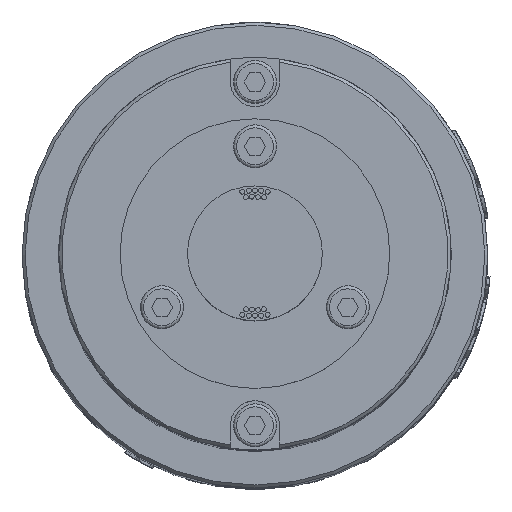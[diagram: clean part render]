
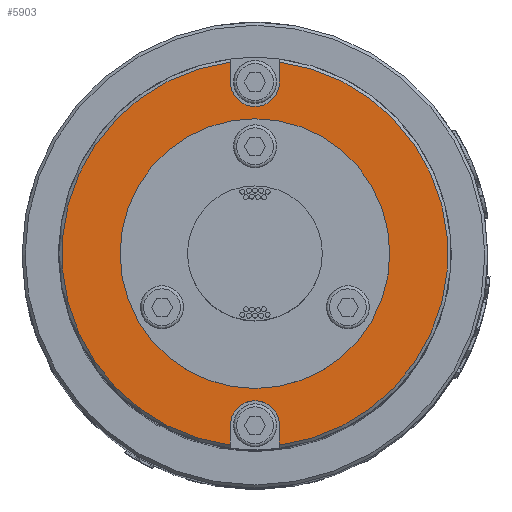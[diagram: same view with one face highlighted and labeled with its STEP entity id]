
A CAD part, top view. The second image highlights one B-rep face of the part: STEP entity #5903.
In plain terms, the highlighted planar face has unit normal (0, 0, 1).
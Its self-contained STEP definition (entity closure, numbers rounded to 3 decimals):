
#435=FACE_BOUND('',#9687,.T.);
#436=FACE_BOUND('',#9688,.T.);
#1433=CIRCLE('',#27094,4.);
#1436=CIRCLE('',#27101,4.);
#1439=CIRCLE('',#27106,31.5);
#1442=CIRCLE('',#27111,31.5);
#1443=CIRCLE('',#27113,22.);
#2493=LINE('',#43301,#4111);
#2495=LINE('',#43322,#4113);
#2501=LINE('',#43340,#4119);
#2503=LINE('',#43361,#4121);
#4111=VECTOR('',#29910,1.);
#4113=VECTOR('',#29914,1.);
#4119=VECTOR('',#29932,1.);
#4121=VECTOR('',#29936,1.);
#5903=ADVANCED_FACE('',(#435,#436),#7280,.T.);
#7280=PLANE('',#27114);
#9687=EDGE_LOOP('',(#13434,#13435,#13436,#13437,#13438,#13439,#13440,#13441));
#9688=EDGE_LOOP('',(#13442));
#13434=ORIENTED_EDGE('',*,*,#22731,.T.);
#13435=ORIENTED_EDGE('',*,*,#22706,.T.);
#13436=ORIENTED_EDGE('',*,*,#22715,.T.);
#13437=ORIENTED_EDGE('',*,*,#22710,.T.);
#13438=ORIENTED_EDGE('',*,*,#22734,.T.);
#13439=ORIENTED_EDGE('',*,*,#22719,.T.);
#13440=ORIENTED_EDGE('',*,*,#22728,.T.);
#13441=ORIENTED_EDGE('',*,*,#22723,.T.);
#13442=ORIENTED_EDGE('',*,*,#22735,.F.);
#19744=VERTEX_POINT('',#43300);
#19745=VERTEX_POINT('',#43302);
#19748=VERTEX_POINT('',#43321);
#19749=VERTEX_POINT('',#43323);
#19754=VERTEX_POINT('',#43339);
#19755=VERTEX_POINT('',#43341);
#19758=VERTEX_POINT('',#43360);
#19759=VERTEX_POINT('',#43362);
#19763=VERTEX_POINT('',#43385);
#22706=EDGE_CURVE('',#19745,#19744,#2493,.T.);
#22710=EDGE_CURVE('',#19749,#19748,#2495,.T.);
#22715=EDGE_CURVE('',#19744,#19749,#1433,.T.);
#22719=EDGE_CURVE('',#19755,#19754,#2501,.T.);
#22723=EDGE_CURVE('',#19759,#19758,#2503,.T.);
#22728=EDGE_CURVE('',#19754,#19759,#1436,.T.);
#22731=EDGE_CURVE('',#19758,#19745,#1439,.T.);
#22734=EDGE_CURVE('',#19748,#19755,#1442,.T.);
#22735=EDGE_CURVE('',#19763,#19763,#1443,.T.);
#27094=AXIS2_PLACEMENT_3D('',#43331,#29925,#29926);
#27101=AXIS2_PLACEMENT_3D('',#43370,#29947,#29948);
#27106=AXIS2_PLACEMENT_3D('',#43377,#29957,#29958);
#27111=AXIS2_PLACEMENT_3D('',#43382,#29967,#29968);
#27113=AXIS2_PLACEMENT_3D('',#43384,#29971,#29972);
#27114=AXIS2_PLACEMENT_3D('',#43386,#29973,#29974);
#29910=DIRECTION('',(0.,1.,0.));
#29914=DIRECTION('',(0.,-1.,0.));
#29925=DIRECTION('',(0.,0.,-1.));
#29926=DIRECTION('',(1.,0.,0.));
#29932=DIRECTION('',(0.,-1.,0.));
#29936=DIRECTION('',(0.,1.,0.));
#29947=DIRECTION('',(0.,0.,-1.));
#29948=DIRECTION('',(-1.,0.,0.));
#29957=DIRECTION('',(0.,0.,1.));
#29958=DIRECTION('',(1.,0.,0.));
#29967=DIRECTION('',(0.,0.,1.));
#29968=DIRECTION('',(1.,0.,0.));
#29971=DIRECTION('',(0.,0.,1.));
#29972=DIRECTION('',(1.,0.,0.));
#29973=DIRECTION('',(0.,0.,1.));
#29974=DIRECTION('',(1.,0.,0.));
#43300=CARTESIAN_POINT('',(-4.,-28.,303.));
#43301=CARTESIAN_POINT('',(-4.,-30.65,303.));
#43302=CARTESIAN_POINT('',(-4.,-31.245,303.));
#43321=CARTESIAN_POINT('',(4.,-31.245,303.));
#43322=CARTESIAN_POINT('',(4.,-30.65,303.));
#43323=CARTESIAN_POINT('',(4.,-28.,303.));
#43331=CARTESIAN_POINT('',(0.,-28.,303.));
#43339=CARTESIAN_POINT('',(4.,28.,303.));
#43340=CARTESIAN_POINT('',(4.,30.65,303.));
#43341=CARTESIAN_POINT('',(4.,31.245,303.));
#43360=CARTESIAN_POINT('',(-4.,31.245,303.));
#43361=CARTESIAN_POINT('',(-4.,30.65,303.));
#43362=CARTESIAN_POINT('',(-4.,28.,303.));
#43370=CARTESIAN_POINT('',(0.,28.,303.));
#43377=CARTESIAN_POINT('',(0.,0.,303.));
#43382=CARTESIAN_POINT('',(0.,0.,303.));
#43384=CARTESIAN_POINT('',(0.,0.,303.));
#43385=CARTESIAN_POINT('',(22.,0.,303.));
#43386=CARTESIAN_POINT('',(0.,0.,303.));
